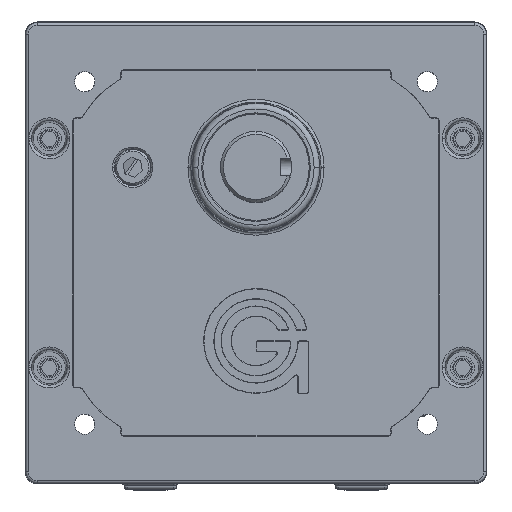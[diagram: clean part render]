
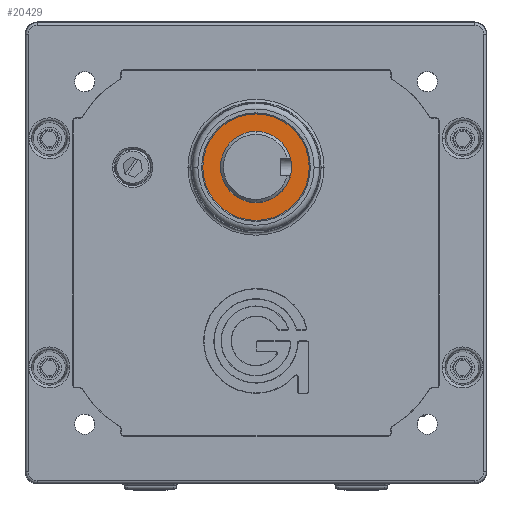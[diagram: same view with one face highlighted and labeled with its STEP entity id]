
A CAD part, top view. The second image highlights one B-rep face of the part: STEP entity #20429.
In plain terms, the highlighted planar face has unit normal (0, 0, 1).
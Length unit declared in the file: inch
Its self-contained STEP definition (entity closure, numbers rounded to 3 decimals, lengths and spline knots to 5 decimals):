
#5600 = DIRECTION ( 'NONE',  ( 1., 0., 0. ) ) ;
#5601 = DIRECTION ( 'NONE',  ( 0., 0., 1. ) ) ;
#5602 = CARTESIAN_POINT ( 'NONE',  ( 0., 0.906, 0.4012 ) ) ;
#5603 = AXIS2_PLACEMENT_3D ( 'NONE', #5602, #5601, #5600 ) ;
#5604 = CIRCLE ( 'NONE', #5603, 0.5625 ) ;
#5606 = CARTESIAN_POINT ( 'NONE',  ( -0.5625, 0.906, 0.4012 ) ) ;
#5607 = CARTESIAN_POINT ( 'NONE',  ( 0.5625, 0.906, 0.4012 ) ) ;
#5608 = DIRECTION ( 'NONE',  ( 1., 0., 0. ) ) ;
#5609 = DIRECTION ( 'NONE',  ( 0., 0., 1. ) ) ;
#5610 = CARTESIAN_POINT ( 'NONE',  ( 0., 0.906, 0.4012 ) ) ;
#5611 = AXIS2_PLACEMENT_3D ( 'NONE', #5610, #5609, #5608 ) ;
#5612 = CIRCLE ( 'NONE', #5611, 0.5625 ) ;
#5637 = DIRECTION ( 'NONE',  ( -1., 0., 0. ) ) ;
#5638 = DIRECTION ( 'NONE',  ( 0., 0., -1. ) ) ;
#5639 = CARTESIAN_POINT ( 'NONE',  ( 0., 1.281, 0.4012 ) ) ;
#5640 = AXIS2_PLACEMENT_3D ( 'NONE', #5639, #5638, #5637 ) ;
#5641 = PLANE ( 'NONE',  #5640 ) ;
#5642 = FACE_OUTER_BOUND ( 'NONE', #20485, .T. ) ;
#5643 = FACE_BOUND ( 'NONE', #20430, .T. ) ;
#5730 = CIRCLE ( 'NONE', #5793, 0.375 ) ;
#5731 = CARTESIAN_POINT ( 'NONE',  ( -0.375, 0.906, 0.4012 ) ) ;
#5732 = CARTESIAN_POINT ( 'NONE',  ( 0.375, 0.906, 0.4012 ) ) ;
#5733 = DIRECTION ( 'NONE',  ( 1., 0., 0. ) ) ;
#5734 = DIRECTION ( 'NONE',  ( 0., 0., 1. ) ) ;
#5735 = AXIS2_PLACEMENT_3D ( 'NONE', #5742, #5734, #5733 ) ;
#5736 = CIRCLE ( 'NONE', #5735, 0.375 ) ;
#5742 = CARTESIAN_POINT ( 'NONE',  ( 0., 0.906, 0.4012 ) ) ;
#5790 = DIRECTION ( 'NONE',  ( 1., 0., 0. ) ) ;
#5791 = DIRECTION ( 'NONE',  ( 0., 0., 1. ) ) ;
#5792 = CARTESIAN_POINT ( 'NONE',  ( 0., 0.906, 0.4012 ) ) ;
#5793 = AXIS2_PLACEMENT_3D ( 'NONE', #5792, #5791, #5790 ) ;
#20408 = EDGE_CURVE ( 'NONE', #20409, #20410, #5612, .T. ) ;
#20409 = VERTEX_POINT ( 'NONE', #5607 ) ;
#20410 = VERTEX_POINT ( 'NONE', #5606 ) ;
#20411 = ORIENTED_EDGE ( 'NONE', *, *, #20412, .T. ) ;
#20412 = EDGE_CURVE ( 'NONE', #20410, #20409, #5604, .T. ) ;
#20429 = ADVANCED_FACE ( 'NONE', ( #5643, #5642 ), #5641, .F. ) ;
#20430 = EDGE_LOOP ( 'NONE', ( #20431, #20483 ) ) ;
#20431 = ORIENTED_EDGE ( 'NONE', *, *, #20480, .F. ) ;
#20480 = EDGE_CURVE ( 'NONE', #20481, #20482, #5736, .T. ) ;
#20481 = VERTEX_POINT ( 'NONE', #5732 ) ;
#20482 = VERTEX_POINT ( 'NONE', #5731 ) ;
#20483 = ORIENTED_EDGE ( 'NONE', *, *, #20484, .F. ) ;
#20484 = EDGE_CURVE ( 'NONE', #20482, #20481, #5730, .T. ) ;
#20485 = EDGE_LOOP ( 'NONE', ( #20486, #20411 ) ) ;
#20486 = ORIENTED_EDGE ( 'NONE', *, *, #20408, .T. ) ;
